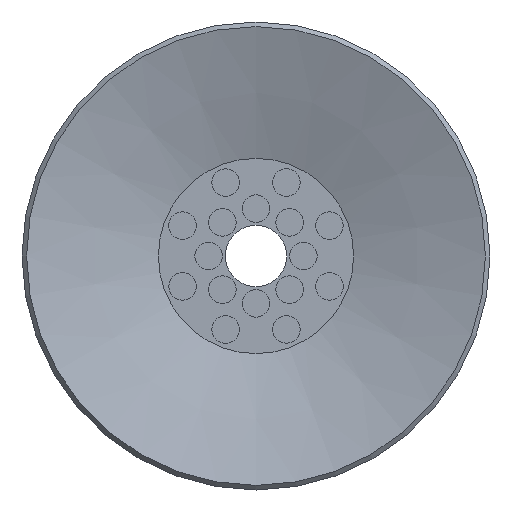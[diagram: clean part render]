
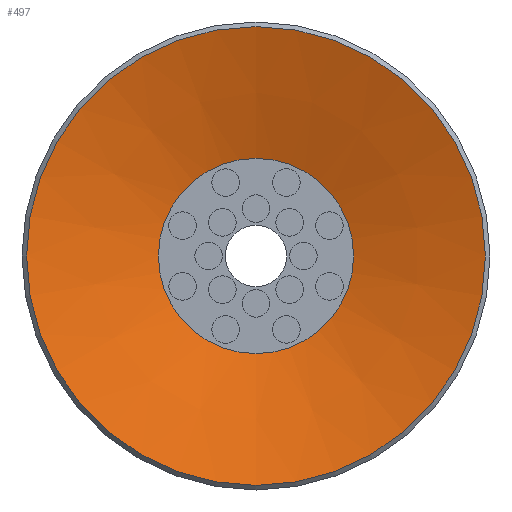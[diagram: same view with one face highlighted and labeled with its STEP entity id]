
A CAD part, front view. The second image highlights one B-rep face of the part: STEP entity #497.
In plain terms, the highlighted conical face has half-angle 72 degrees and reference radius 7.5 mm.
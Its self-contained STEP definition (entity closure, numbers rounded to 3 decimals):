
#497=ADVANCED_FACE('',(#788,#789),#790,.F.);
#788=FACE_BOUND('',#1112,.T.);
#789=FACE_OUTER_BOUND('',#1113,.T.);
#790=CONICAL_SURFACE('',#1114,7.5,1.257);
#1112=EDGE_LOOP('',(#1785));
#1113=EDGE_LOOP('',(#1786));
#1114=AXIS2_PLACEMENT_3D('',#1787,#1788,#1789);
#1785=ORIENTED_EDGE('',*,*,#2026,.T.);
#1786=ORIENTED_EDGE('',*,*,#2032,.F.);
#1787=CARTESIAN_POINT('',(0.0,0.,0.));
#1788=DIRECTION('',(0.0,0.,-1.0));
#1789=DIRECTION('',(0.0,1.0,0.));
#2026=EDGE_CURVE('',#2306,#2306,#2307,.T.);
#2032=EDGE_CURVE('',#2318,#2318,#2319,.T.);
#2306=VERTEX_POINT('',#2928);
#2307=CIRCLE('',#2929,3.191);
#2318=VERTEX_POINT('',#2940);
#2319=CIRCLE('',#2941,7.5);
#2928=CARTESIAN_POINT('',(0.0,-3.191,1.4));
#2929=AXIS2_PLACEMENT_3D('',#3236,#3237,#3238);
#2940=CARTESIAN_POINT('',(0.0,-7.5,0.));
#2941=AXIS2_PLACEMENT_3D('',#3254,#3255,#3256);
#3236=CARTESIAN_POINT('',(0.0,0.,1.4));
#3237=DIRECTION('',(0.0,0.,1.0));
#3238=DIRECTION('',(0.0,-1.0,0.));
#3254=CARTESIAN_POINT('',(0.0,0.,0.));
#3255=DIRECTION('',(0.0,0.,1.0));
#3256=DIRECTION('',(0.0,-1.0,0.));
